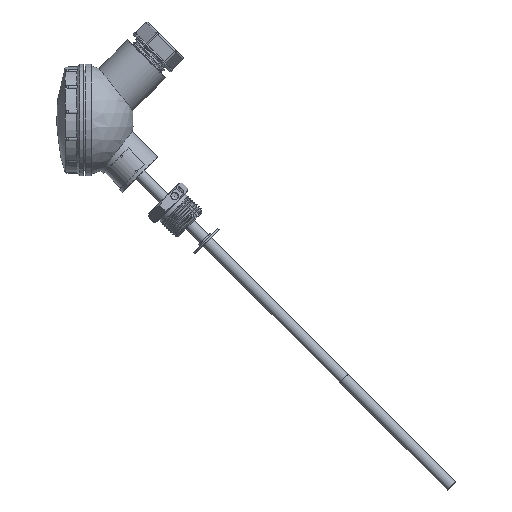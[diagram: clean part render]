
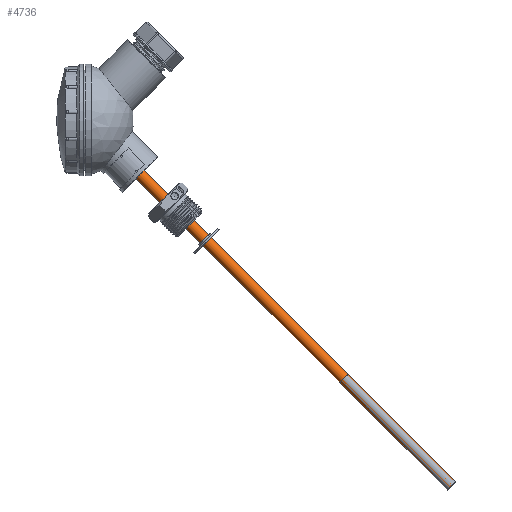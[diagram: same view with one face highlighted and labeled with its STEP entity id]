
A CAD part, left-side view. The second image highlights one B-rep face of the part: STEP entity #4736.
In plain terms, the highlighted cylindrical face has radius 3 mm (diameter 6 mm), a full revolution.
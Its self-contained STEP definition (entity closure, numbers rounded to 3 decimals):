
#4736=ADVANCED_FACE('',(#18032,#18034),#18036,.T.);
#18032=FACE_OUTER_BOUND('',#18033,.T.);
#18033=EDGE_LOOP('',(#20871));
#18034=FACE_OUTER_BOUND('',#18035,.T.);
#18035=EDGE_LOOP('',(#20872));
#18036=CYLINDRICAL_SURFACE('',#18037,3.);
#18037=AXIS2_PLACEMENT_3D('',#18038,#18039,#18040);
#18038=CARTESIAN_POINT('',(0.,0.,-111.));
#18039=DIRECTION('',(0.,0.,1.));
#18040=DIRECTION('',(1.,0.,0.));
#20871=ORIENTED_EDGE('',*,*,#22044,.F.);
#20872=ORIENTED_EDGE('',*,*,#22045,.T.);
#22044=EDGE_CURVE('',#23787,#23787,#23788,.T.);
#22045=EDGE_CURVE('',#23789,#23789,#23790,.T.);
#23787=VERTEX_POINT('',#85236);
#23788=CIRCLE('',#85237,3.);
#23789=VERTEX_POINT('',#85241);
#23790=CIRCLE('',#85242,3.);
#85236=CARTESIAN_POINT('',(3.,0.,120.8));
#85237=AXIS2_PLACEMENT_3D('',#85238,#85239,#85240);
#85238=CARTESIAN_POINT('',(0.,0.,120.8));
#85239=DIRECTION('',(0.,0.,1.));
#85240=DIRECTION('',(1.,0.,0.));
#85241=CARTESIAN_POINT('',(3.,0.,-111.));
#85242=AXIS2_PLACEMENT_3D('',#85243,#85244,#85245);
#85243=CARTESIAN_POINT('',(0.,0.,-111.));
#85244=DIRECTION('',(0.,0.,1.));
#85245=DIRECTION('',(1.,0.,0.));
